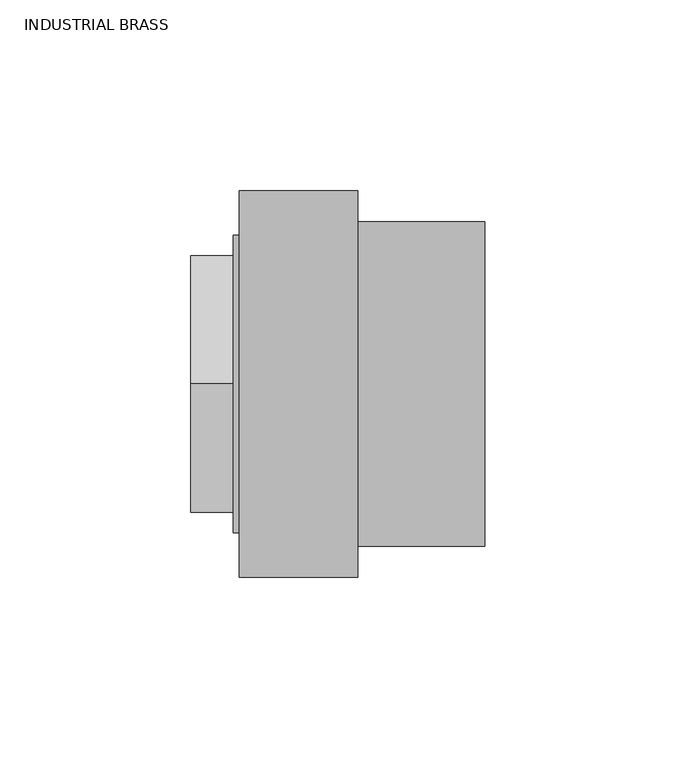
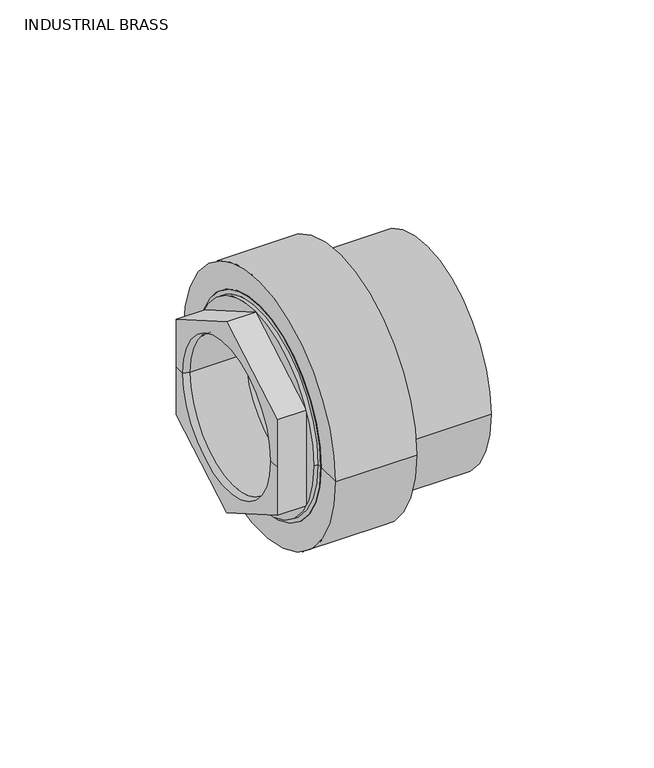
"""IFC4 building model written with IfcOpenShell, lengths in millimetres: valve geometry, Aquatherm - Transition Piece - F HEX : INDUSTRIAL BRASS."""

from ifc_helpers import new_model, si_unit, frame, origin, place, context, project, spatial, polyline, circle_curve, source, transform, mapped, element, save
from ifc_brep_helpers import plane_surface, cylinder_surface, revolved_surface, advanced_brep


def industrial_brass_03bd1539(model_context):
    return source(origin(), model_context, "Body", "AdvancedBrep", [
        advanced_brep(
        [(11.1125, -28.575, 0.0), (11.1125, 28.575, 0.0), (-10.1203125, 28.575, 0.0), (-10.1203125, -28.575, 0.0), (11.1125, -29.36875, 0.0), (11.1125, 29.36875, 0.0), (14.2875, -29.36875, 0.0), (14.2875, 29.36875, 0.0), (14.2875, -25.4, 0.0), (14.2875, 25.4, 0.0), (17.4625, -25.4, 0.0), (17.4625, 25.4, 0.0), (17.4625, -40.64, 0.0), (17.4625, 40.64, 0.0), (0.0, -40.64, 0.0), (0.0, 40.64, 0.0), (-12.7, -29.36875, 0.0), (-12.7, 29.36875, 0.0), (-12.7, 33.528, 0.0), (-12.7, 33.528, -19.3573998), (-12.7, 0.0, -38.7147997), (-12.7, -33.528, -19.3573998), (-12.7, -33.528, 0.0), (-12.7, -33.528, 19.3573998), (-12.7, 0.0, 38.7147997), (-12.7, 33.528, 19.3573998), (0.0, -38.989, 0.0), (0.0, 38.989, 0.0), (-1.5875, -38.989, 0.0), (-1.5875, 38.989, 0.0), (-1.5875, 0.0, -38.7147997), (-1.5875, 33.528, -19.3573998), (-1.5875, 33.528, 19.3573998), (-1.5875, 0.0, 38.7147997), (-1.5875, -33.528, 19.3573998), (-1.5875, -33.528, -19.3573998)],
        [
            (0, 1, circle_curve(frame((11.1125, 0.0, 0.0), z_axis=(1.0, 0.0, 0.0), x_axis=(0.0, 1.0, 0.0)), 28.575)),
            (1, 2),
            (2, 3, circle_curve(frame((-10.1203125, 0.0, 0.0), z_axis=(-1.0, 0.0, 0.0), x_axis=(0.0, 1.0, 0.0)), 28.575)),
            (3, 0),
            (1, 0, circle_curve(frame((11.1125, 0.0, 0.0), z_axis=(1.0, 0.0, 0.0), x_axis=(0.0, 1.0, 0.0)), 28.575)),
            (3, 2, circle_curve(frame((-10.1203125, 0.0, 0.0), z_axis=(-1.0, 0.0, 0.0), x_axis=(0.0, 1.0, 0.0)), 28.575)),
            (0, 4),
            (4, 5, circle_curve(frame((11.1125, 0.0, 0.0), z_axis=(1.0, 0.0, 0.0), x_axis=(0.0, 1.0, 0.0)), 29.36875)),
            (5, 1),
            (5, 4, circle_curve(frame((11.1125, 0.0, 0.0), z_axis=(1.0, 0.0, 0.0), x_axis=(0.0, 1.0, 0.0)), 29.36875)),
            (4, 6),
            (6, 7, circle_curve(frame((14.2875, 0.0, 0.0), z_axis=(1.0, 0.0, 0.0), x_axis=(0.0, 1.0, 0.0)), 29.36875)),
            (7, 5),
            (7, 6, circle_curve(frame((14.2875, 0.0, 0.0), z_axis=(1.0, 0.0, 0.0), x_axis=(0.0, 1.0, 0.0)), 29.36875)),
            (6, 8),
            (8, 9, circle_curve(frame((14.2875, 0.0, 0.0), z_axis=(1.0, 0.0, 0.0), x_axis=(0.0, 1.0, 0.0)), 25.4)),
            (9, 7),
            (9, 8, circle_curve(frame((14.2875, 0.0, 0.0), z_axis=(1.0, 0.0, 0.0), x_axis=(0.0, 1.0, 0.0)), 25.4)),
            (8, 10),
            (10, 11, circle_curve(frame((17.4625, 0.0, 0.0), z_axis=(1.0, 0.0, 0.0), x_axis=(0.0, 1.0, 0.0)), 25.4)),
            (11, 9),
            (11, 10, circle_curve(frame((17.4625, 0.0, 0.0), z_axis=(1.0, 0.0, 0.0), x_axis=(0.0, 1.0, 0.0)), 25.4)),
            (10, 12),
            (12, 13, circle_curve(frame((17.4625, 0.0, 0.0), z_axis=(1.0, 0.0, 0.0), x_axis=(0.0, 1.0, 0.0)), 40.64)),
            (13, 11),
            (13, 12, circle_curve(frame((17.4625, 0.0, 0.0), z_axis=(1.0, 0.0, 0.0), x_axis=(0.0, 1.0, 0.0)), 40.64)),
            (12, 14),
            (14, 15, circle_curve(frame((0.0, 0.0, 0.0), z_axis=(1.0, 0.0, 0.0), x_axis=(0.0, 1.0, 0.0)), 40.64)),
            (15, 13),
            (15, 14, circle_curve(frame((0.0, 0.0, 0.0), z_axis=(1.0, 0.0, 0.0), x_axis=(0.0, 1.0, 0.0)), 40.64)),
            (16, 17, circle_curve(frame((-12.7, 0.0, 0.0), z_axis=(1.0, 0.0, 0.0), x_axis=(0.0, 1.0, 0.0)), 29.36875)),
            (17, 18),
            (18, 19),
            (19, 20),
            (20, 21),
            (21, 22),
            (22, 16),
            (17, 16, circle_curve(frame((-12.7, 0.0, 0.0), z_axis=(1.0, 0.0, 0.0), x_axis=(0.0, 1.0, 0.0)), 29.36875)),
            (22, 23),
            (23, 24),
            (24, 25),
            (25, 18),
            (2, 17),
            (16, 3),
            (14, 26),
            (26, 27, circle_curve(frame((0.0, 0.0, 0.0), z_axis=(1.0, 0.0, 0.0), x_axis=(0.0, 1.0, 0.0)), 38.989)),
            (27, 15),
            (27, 26, circle_curve(frame((0.0, 0.0, 0.0), z_axis=(1.0, 0.0, 0.0), x_axis=(0.0, 1.0, 0.0)), 38.989)),
            (26, 28),
            (28, 29, circle_curve(frame((-1.5875, 0.0, 0.0), z_axis=(1.0, 0.0, 0.0), x_axis=(0.0, 1.0, 0.0)), 38.989)),
            (29, 27),
            (29, 28, circle_curve(frame((-1.5875, 0.0, 0.0), z_axis=(1.0, 0.0, 0.0), x_axis=(0.0, 1.0, 0.0)), 38.989)),
            (30, 31),
            (31, 32),
            (32, 33),
            (33, 34),
            (34, 35),
            (35, 30),
            (35, 21),
            (20, 30),
            (34, 23),
            (33, 24),
            (32, 25),
            (31, 19),
        ],
        [
            revolved_surface(polyline([(-10.1203125, 28.575, 0.0), (11.1125, 28.575, 0.0)]), (-14.5332251, 0.0, 0.0), (-1.0, 0.0, 0.0)),
            plane_surface(frame((11.1125, 0.0, 0.0), z_axis=(1.0, 0.0, 0.0), x_axis=(0.0, 1.0, 0.0))),
            revolved_surface(polyline([(11.1125, 29.36875, 0.0), (14.287499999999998, 29.36875, 0.0)]), (-14.5332251, 0.0, 0.0), (-1.0, 0.0, 0.0)),
            plane_surface(frame((14.2875, 0.0, 0.0), z_axis=(-1.0, 0.0, 0.0), x_axis=(0.0, 1.0, 0.0))),
            revolved_surface(polyline([(14.287499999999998, 25.4, 0.0), (17.4625, 25.4, 0.0)]), (-14.5332251, 0.0, 0.0), (-1.0, 0.0, 0.0)),
            plane_surface(frame((17.4625, 0.0, 0.0), z_axis=(1.0, 0.0, 0.0), x_axis=(0.0, 1.0, 0.0))),
            cylinder_surface(frame((-14.5332251, 0.0, 0.0), z_axis=(-1.0, 0.0, 0.0), x_axis=(0.0, 1.0, 0.0)), 40.64),
            plane_surface(frame((-12.7, 0.0, 0.0), z_axis=(-1.0, 0.0, 0.0), x_axis=(0.0, 1.0, 0.0))),
            revolved_surface(polyline([(-12.7, 29.36875, 0.0), (-10.1203125, 28.575, 0.0)]), (-14.5332251, 0.0, 0.0), (-1.0, 0.0, 0.0)),
            plane_surface(frame((0.0, 0.0, 0.0), z_axis=(-1.0, 0.0, 0.0), x_axis=(0.0, 1.0, 0.0))),
            cylinder_surface(frame((-14.5332251, 0.0, 0.0), z_axis=(-1.0, 0.0, 0.0), x_axis=(0.0, 1.0, 0.0)), 38.989),
            plane_surface(frame((-1.5875, -33.528, -19.3573998), z_axis=(-1.0, 0.0, 0.0), x_axis=(0.0, -0.8660254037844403, 0.49999999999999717))),
            plane_surface(frame((-1.5875, 0.0, -38.7147997), z_axis=(0.0, -0.49999999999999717, -0.8660254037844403), x_axis=(-1.0, 0.0, 0.0))),
            plane_surface(frame((-1.5875, -33.528, -19.3573998), z_axis=(0.0, -1.0, 0.0), x_axis=(-1.0, 0.0, 0.0))),
            plane_surface(frame((-1.5875, -33.528, 19.3573998), z_axis=(0.0, -0.5000000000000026, 0.8660254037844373), x_axis=(-1.0, 0.0, 0.0))),
            plane_surface(frame((-1.5875, 0.0, 38.7147997), z_axis=(0.0, 0.4999999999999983, 0.8660254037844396), x_axis=(-1.0, 0.0, 0.0))),
            plane_surface(frame((-1.5875, 33.528, 19.3573998), z_axis=(0.0, 1.0, 0.0), x_axis=(-1.0, 0.0, 0.0))),
            plane_surface(frame((-1.5875, 33.528, -19.3573998), z_axis=(0.0, 0.5000000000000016, -0.8660254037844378), x_axis=(-1.0, 0.0, 0.0))),
        ],
        [
            (0, [[1, 2, 3, 4]]),
            (0, [[-2, 5, -4, 6]]),
            (1, [[-1, 7, 8, 9]]),
            (1, [[-5, -9, 10, -7]]),
            (2, [[-8, 11, 12, 13]]),
            (2, [[-10, -13, 14, -11]]),
            (3, [[-12, 15, 16, 17]]),
            (3, [[-14, -17, 18, -15]]),
            (4, [[-16, 19, 20, 21]]),
            (4, [[-18, -21, 22, -19]]),
            (5, [[-20, 23, 24, 25]]),
            (5, [[-22, -25, 26, -23]]),
            (6, [[-24, 27, 28, 29]]),
            (6, [[-26, -29, 30, -27]]),
            (7, [[31, 32, 33, 34, 35, 36, 37]]),
            (7, [[38, -37, 39, 40, 41, 42, -32]]),
            (8, [[-3, 43, -31, 44]]),
            (8, [[-6, -44, -38, -43]]),
            (9, [[-28, 45, 46, 47]]),
            (9, [[-30, -47, 48, -45]]),
            (10, [[-46, 49, 50, 51]]),
            (10, [[-48, -51, 52, -49]]),
            (11, [[-50, -52], [53, 54, 55, 56, 57, 58]]),
            (12, [[-58, 59, -35, 60]]),
            (13, [[-57, 61, -39, -36, -59]]),
            (14, [[-56, 62, -40, -61]]),
            (15, [[-55, 63, -41, -62]]),
            (16, [[-54, 64, -33, -42, -63]]),
            (17, [[-53, -60, -34, -64]]),
        ],
    ),
        advanced_brep(
        [(0.0, -50.546, 0.0), (0.0, 50.546, 0.0), (30.988, 50.546, 0.0), (30.988, -50.546, 0.0), (0.0, -40.64, 0.0), (0.0, 40.64, 0.0), (17.4625, -40.64, 0.0), (17.4625, 40.64, 0.0), (17.4625, -25.4, 0.0), (17.4625, 25.4, 0.0), (36.83, -25.4, 0.0), (36.83, 25.4, 0.0), (36.83, -31.496, 0.0), (36.83, 31.496, 0.0), (64.262, -31.496, 0.0), (64.262, 31.496, 0.0), (64.262, -42.4815, 0.0), (64.262, 42.4815, 0.0), (30.988, -42.4815, 0.0), (30.988, 42.4815, 0.0)],
        [
            (0, 1, circle_curve(frame((0.0, 0.0, 0.0), z_axis=(1.0, 0.0, 0.0), x_axis=(0.0, 1.0, 0.0)), 50.546)),
            (1, 2),
            (2, 3, circle_curve(frame((30.988, 0.0, 0.0), z_axis=(-1.0, 0.0, 0.0), x_axis=(0.0, 1.0, 0.0)), 50.546)),
            (3, 0),
            (1, 0, circle_curve(frame((0.0, 0.0, 0.0), z_axis=(1.0, 0.0, 0.0), x_axis=(0.0, 1.0, 0.0)), 50.546)),
            (3, 2, circle_curve(frame((30.988, 0.0, 0.0), z_axis=(-1.0, 0.0, 0.0), x_axis=(0.0, 1.0, 0.0)), 50.546)),
            (4, 5, circle_curve(frame((0.0, 0.0, 0.0), z_axis=(1.0, 0.0, 0.0), x_axis=(0.0, 1.0, 0.0)), 40.64)),
            (5, 1),
            (0, 4),
            (5, 4, circle_curve(frame((0.0, 0.0, 0.0), z_axis=(1.0, 0.0, 0.0), x_axis=(0.0, 1.0, 0.0)), 40.64)),
            (6, 7, circle_curve(frame((17.4625, 0.0, 0.0), z_axis=(1.0, 0.0, 0.0), x_axis=(0.0, 1.0, 0.0)), 40.64)),
            (7, 5),
            (4, 6),
            (7, 6, circle_curve(frame((17.4625, 0.0, 0.0), z_axis=(1.0, 0.0, 0.0), x_axis=(0.0, 1.0, 0.0)), 40.64)),
            (8, 9, circle_curve(frame((17.4625, 0.0, 0.0), z_axis=(1.0, 0.0, 0.0), x_axis=(0.0, 1.0, 0.0)), 25.4)),
            (9, 7),
            (6, 8),
            (9, 8, circle_curve(frame((17.4625, 0.0, 0.0), z_axis=(1.0, 0.0, 0.0), x_axis=(0.0, 1.0, 0.0)), 25.4)),
            (10, 11, circle_curve(frame((36.83, 0.0, 0.0), z_axis=(1.0, 0.0, 0.0), x_axis=(0.0, 1.0, 0.0)), 25.4)),
            (11, 9),
            (8, 10),
            (11, 10, circle_curve(frame((36.83, 0.0, 0.0), z_axis=(1.0, 0.0, 0.0), x_axis=(0.0, 1.0, 0.0)), 25.4)),
            (12, 13, circle_curve(frame((36.83, 0.0, 0.0), z_axis=(1.0, 0.0, 0.0), x_axis=(0.0, 1.0, 0.0)), 31.496)),
            (13, 11),
            (10, 12),
            (13, 12, circle_curve(frame((36.83, 0.0, 0.0), z_axis=(1.0, 0.0, 0.0), x_axis=(0.0, 1.0, 0.0)), 31.496)),
            (14, 15, circle_curve(frame((64.262, 0.0, 0.0), z_axis=(1.0, 0.0, 0.0), x_axis=(0.0, 1.0, 0.0)), 31.496)),
            (15, 13),
            (12, 14),
            (15, 14, circle_curve(frame((64.262, 0.0, 0.0), z_axis=(1.0, 0.0, 0.0), x_axis=(0.0, 1.0, 0.0)), 31.496)),
            (16, 17, circle_curve(frame((64.262, 0.0, 0.0), z_axis=(1.0, 0.0, 0.0), x_axis=(0.0, 1.0, 0.0)), 42.4815)),
            (17, 15),
            (14, 16),
            (17, 16, circle_curve(frame((64.262, 0.0, 0.0), z_axis=(1.0, 0.0, 0.0), x_axis=(0.0, 1.0, 0.0)), 42.4815)),
            (18, 19, circle_curve(frame((30.988, 0.0, 0.0), z_axis=(1.0, 0.0, 0.0), x_axis=(0.0, 1.0, 0.0)), 42.4815)),
            (19, 17),
            (16, 18),
            (19, 18, circle_curve(frame((30.988, 0.0, 0.0), z_axis=(1.0, 0.0, 0.0), x_axis=(0.0, 1.0, 0.0)), 42.4815)),
            (2, 19),
            (18, 3),
        ],
        [
            cylinder_surface(frame((-20.8031162, 0.0, 0.0), z_axis=(-1.0, 0.0, 0.0), x_axis=(0.0, 1.0, 0.0)), 50.546),
            plane_surface(frame((0.0, 0.0, 0.0), z_axis=(-1.0, 0.0, 0.0), x_axis=(0.0, 1.0, 0.0))),
            revolved_surface(polyline([(0.0, 40.64, 0.0), (17.462499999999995, 40.64, 0.0)]), (-20.8031162, 0.0, 0.0), (-1.0, 0.0, 0.0)),
            plane_surface(frame((17.4625, 0.0, 0.0), z_axis=(-1.0, 0.0, 0.0), x_axis=(0.0, 1.0, 0.0))),
            revolved_surface(polyline([(17.462499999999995, 25.4, 0.0), (36.83, 25.4, 0.0)]), (-20.8031162, 0.0, 0.0), (-1.0, 0.0, 0.0)),
            plane_surface(frame((36.83, 0.0, 0.0), z_axis=(1.0, 0.0, 0.0), x_axis=(0.0, 1.0, 0.0))),
            revolved_surface(polyline([(36.83, 31.496, 0.0), (64.262, 31.496, 0.0)]), (-20.8031162, 0.0, 0.0), (-1.0, 0.0, 0.0)),
            plane_surface(frame((64.262, 0.0, 0.0), z_axis=(1.0, 0.0, 0.0), x_axis=(0.0, 1.0, 0.0))),
            cylinder_surface(frame((-20.8031162, 0.0, 0.0), z_axis=(-1.0, 0.0, 0.0), x_axis=(0.0, 1.0, 0.0)), 42.4815),
            plane_surface(frame((30.988, 0.0, 0.0), z_axis=(1.0, 0.0, 0.0), x_axis=(0.0, 1.0, 0.0))),
        ],
        [
            (0, [[1, 2, 3, 4]]),
            (0, [[5, -4, 6, -2]]),
            (1, [[7, 8, -1, 9]]),
            (1, [[10, -9, -5, -8]]),
            (2, [[11, 12, -7, 13]]),
            (2, [[14, -13, -10, -12]]),
            (3, [[15, 16, -11, 17]]),
            (3, [[18, -17, -14, -16]]),
            (4, [[19, 20, -15, 21]]),
            (4, [[22, -21, -18, -20]]),
            (5, [[23, 24, -19, 25]]),
            (5, [[26, -25, -22, -24]]),
            (6, [[27, 28, -23, 29]]),
            (6, [[30, -29, -26, -28]]),
            (7, [[31, 32, -27, 33]]),
            (7, [[34, -33, -30, -32]]),
            (8, [[35, 36, -31, 37]]),
            (8, [[38, -37, -34, -36]]),
            (9, [[-3, 39, -35, 40]]),
            (9, [[-6, -40, -38, -39]]),
        ],
    ),
    ])


if __name__ == "__main__":
    model = new_model("IFC4")
    model_context = context("Model", 3, world=origin())
    ifc_project = project(units=[si_unit("LENGTHUNIT", "METRE", prefix="MILLI")], contexts=[model_context])
    site = spatial("IfcSite", under=ifc_project)
    building = spatial("IfcBuilding", under=site)
    placement = place(None, origin())
    industrial_brass_shape = industrial_brass_03bd1539(model_context)
    element("IfcValve", 1, ObjectType="Aquatherm - Transition Piece - F HEX : INDUSTRIAL BRASS", at=placement, inside=building, context=model_context, shape_type="MappedRepresentation", body=[
        mapped(industrial_brass_shape, transform((0.0, 0.0, 0.0), x_axis=(1.0, 0.0, 0.0), y_axis=(0.0, 1.0, 0.0), z_axis=(0.0, 0.0, 1.0))),
    ])
    save(model, "model.ifc")
